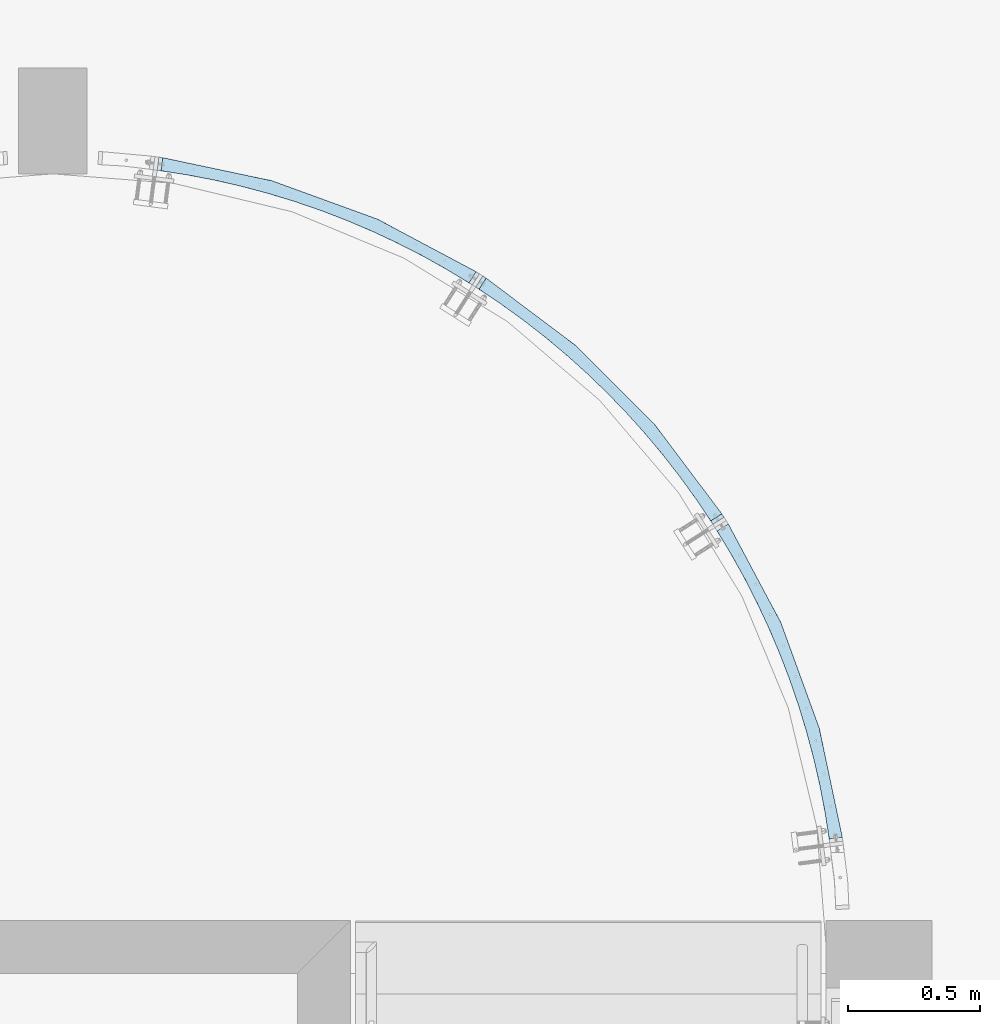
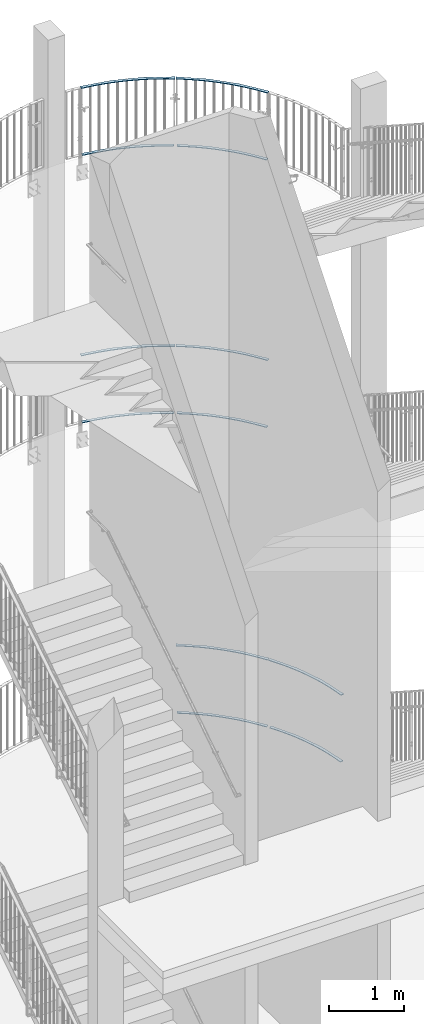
# One storey, part 106 of 296: 12 plates, 24 openings.
"""IFC2X3 building model written with IfcOpenShell, lengths in millimetres."""

from ifc_helpers import new_model, entity, si_unit, converted_unit, point, frame, frame_2d, origin, origin_with_axes, origin_2d_with_axis, place, context, project, spatial, polyline, circle_curve, line_curve, trimmed, segment, composite_curve, outline, extrude, material, layer, layer_set, element, save


model = new_model("IFC2X3")

# Units and contexts
model_context = context("Model", 3, precision=1e-09, world=origin_with_axes())
ifc_project = project(units=[si_unit("LENGTHUNIT", "METRE", prefix="MILLI"), si_unit("AREAUNIT", "SQUARE_METRE"), si_unit("VOLUMEUNIT", "CUBIC_METRE"), converted_unit("PLANEANGLEUNIT", "DEGREE", entity("IfcPlaneAngleMeasure", 0.01745329), si_unit("PLANEANGLEUNIT", "RADIAN"), dimensions=[0, 0, 0, 0, 0, 0, 0])], contexts=[model_context])

# Site, building, storey
site_placement = place(None, origin_with_axes())
site = spatial("IfcSite", under=ifc_project, at=site_placement, Name="TZD-S?d | Treppenhausgel?nder", CompositionType="ELEMENT")
building_placement = place(site_placement, origin_with_axes())
building = spatial("IfcBuilding", under=site, at=building_placement, Name="Struktur 1", CompositionType="ELEMENT")
storey_placement = place(building_placement, origin_with_axes())
storey = spatial("IfcBuildingStorey", under=building, at=storey_placement, Name="Default Storey", CompositionType="ELEMENT", Elevation=0.0)

# Plate, openings
ifc_material = material(Name="S235JR")
ifc_layer = layer(ifc_material, 10.0)
ifc_layer_set = layer_set([ifc_layer], Name="S235JR")
plate_1_placement = place(None, frame((3319.444758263, 2838.645663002, 12815.0), z_axis=(0.0, 0.0, -1.0), x_axis=(0.130526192, 0.991444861, 0.0)))
plate_1 = element("IfcPlate", 1, at=plate_1_placement, inside=storey, material=ifc_layer_set, Name="Girder", ObjectType="Girder", context=model_context, shape_type="SweptSolid", body=[
    extrude(outline(polyline([(0.0, 0.0), (50.000157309, 0.0), (48.357010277, 660.543062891), (-229.311353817, 1259.892808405), (-274.626885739, 1238.761828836), (-2964.990514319, -7.5), (0.0, 0.0)])), origin_with_axes(), (0.0, 0.0, -1.0), 10.0),
])
opening_1_placement = place(plate_1_placement, frame((48.357010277, 660.543062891, 0.01), z_axis=(0.0, 0.0, 1.0), x_axis=(-0.420362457, 0.907356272, 0.0)))
element("IfcOpeningElement", 2, at=opening_1_placement, cuts=plate_1, ObjectType="Opening", context=model_context, shape_type="SweptSolid", body=[
    extrude(outline(composite_curve([segment(trimmed(line_curve((0.0, 0.0), (1.0, 0.0), 660.54510661), [point((0.0, 0.0))], [point((660.54510661, 0.0))], True, "CARTESIAN"), True, "CONTINUOUS"), segment(trimmed(circle_curve(frame_2d((660.54510661, 3015.0), x_axis=(-1.0, 0.0)), 3015.0), [point((660.54510661, 0.0))], [point((-600.038608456, 276.176585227))], False, "CARTESIAN"), True, "CONTINUOUS"), segment(trimmed(line_curve((-600.038608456, 276.176585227), (0.908399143, -0.418104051), 660.54510661), [point((-600.038608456, 276.176585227))], [point((0.0, 0.0))], True, "CARTESIAN"), True, "CONTINUOUS")], self_intersect=False)), origin(), (0.0, 0.0, -1.0), 10.02),
])
opening_2_placement = place(plate_1_placement, frame((-2964.990514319, -7.5, 0.01), z_axis=(0.0, 0.0, 1.0), x_axis=(0.999996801, 0.002529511, 0.0)))
element("IfcOpeningElement", 3, at=opening_2_placement, cuts=plate_1, ObjectType="Opening", context=model_context, shape_type="SweptSolid", body=[
    extrude(outline(composite_curve([segment(trimmed(line_curve((0.0, 0.0), (1.0, 0.0), 2965.0), [point((0.0, 0.0))], [point((2965.0, 0.0))], True, "CARTESIAN"), True, "CONTINUOUS"), segment(trimmed(circle_curve(origin_2d_with_axis(), 2965.0), [point((2965.0, 0.0))], [point((2693.507454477, 1239.452537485))], True, "CARTESIAN"), True, "CONTINUOUS"), segment(trimmed(line_curve((2693.507454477, 1239.452537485), (-0.908434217, -0.418027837), 2965.0), [point((2693.507454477, 1239.452537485))], [point((0.0, 0.0))], True, "CARTESIAN"), True, "CONTINUOUS")], self_intersect=False)), origin(), (0.0, 0.0, -1.0), 10.02),
])

plate_2_placement = place(None, frame((5463.787594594, 1526.278742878, 12815.0), z_axis=(0.0, 0.0, -1.0), x_axis=(-0.843391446, -0.537299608, 0.0)))
plate_2 = element("IfcPlate", 4, at=plate_2_placement, inside=storey, material=ifc_layer_set, Name="Girder", ObjectType="Girder", context=model_context, shape_type="SweptSolid", body=[
    extrude(outline(polyline([(0.0, 0.0), (50.000157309, 0.0), (3014.990671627, -7.500000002), (324.627043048, 1238.761828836), (279.311511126, 1259.892808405), (1.643147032, 660.543062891), (0.0, 0.0)])), origin_with_axes(), (0.0, 0.0, -1.0), 10.0),
])
opening_3_placement = place(plate_2_placement, frame((3014.990671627, -7.500000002, 0.01), z_axis=(0.0, 0.0, 1.0), x_axis=(-0.907373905, 0.420324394, 0.0)))
element("IfcOpeningElement", 5, at=opening_3_placement, cuts=plate_2, ObjectType="Opening", context=model_context, shape_type="SweptSolid", body=[
    extrude(outline(composite_curve([segment(trimmed(line_curve((0.0, 0.0), (1.0, 0.0), 2965.0), [point((0.0, 0.0))], [point((2965.0, 0.0))], True, "CARTESIAN"), True, "CONTINUOUS"), segment(trimmed(circle_curve(origin_2d_with_axis(), 2965.0), [point((2965.0, 0.0))], [point((2693.507454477, 1239.452537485))], True, "CARTESIAN"), True, "CONTINUOUS"), segment(trimmed(line_curve((2693.507454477, 1239.452537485), (-0.908434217, -0.418027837), 2965.0), [point((2693.507454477, 1239.452537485))], [point((0.0, 0.0))], True, "CARTESIAN"), True, "CONTINUOUS")], self_intersect=False)), origin(), (0.0, 0.0, -1.0), 10.02),
])
opening_4_placement = place(plate_2_placement, frame((1.643147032, 660.543062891, 0.01), z_axis=(0.0, 0.0, 1.0), x_axis=(-0.002487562, -0.999996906, 0.0)))
element("IfcOpeningElement", 6, at=opening_4_placement, cuts=plate_2, ObjectType="Opening", context=model_context, shape_type="SweptSolid", body=[
    extrude(outline(composite_curve([segment(trimmed(line_curve((0.0, 0.0), (1.0, 0.0), 660.54510661), [point((0.0, 0.0))], [point((660.54510661, 0.0))], True, "CARTESIAN"), True, "CONTINUOUS"), segment(trimmed(circle_curve(frame_2d((660.54510661, 3015.0), x_axis=(-1.0, 0.0)), 3015.0), [point((660.54510661, 0.0))], [point((-600.038608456, 276.176585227))], False, "CARTESIAN"), True, "CONTINUOUS"), segment(trimmed(line_curve((-600.038608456, 276.176585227), (0.908399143, -0.418104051), 660.54510661), [point((-600.038608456, 276.176585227))], [point((0.0, 0.0))], True, "CARTESIAN"), True, "CONTINUOUS")], self_intersect=False)), origin(), (0.0, 0.0, -1.0), 10.02),
])

plate_3_placement = place(None, frame((3334.306526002, 2836.612532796, 11725.0), z_axis=(0.0, 0.0, 1.0), x_axis=(0.990425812, -0.138046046, 0.0)))
plate_3 = element("IfcPlate", 7, at=plate_3_placement, inside=storey, material=ifc_layer_set, Name="-", ObjectType="-", context=model_context, shape_type="SweptSolid", body=[
    extrude(outline(polyline([(0.0, 0.0), (0.0, -2965.0), (1212.136152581, -259.089626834), (1232.923168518, -213.613901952), (644.462458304, 50.0811294), (-0.379437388, 49.999976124), (0.0, 0.0)])), origin_with_axes(), (0.0, 0.0, -1.0), 10.0),
])
opening_5_placement = place(plate_3_placement, frame((0.0, -2965.0, 0.01), z_axis=(0.0, 0.0, 1.0), x_axis=(0.408814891, 0.912617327, 0.0)))
element("IfcOpeningElement", 8, at=opening_5_placement, cuts=plate_3, ObjectType="Opening", context=model_context, shape_type="SweptSolid", body=[
    extrude(outline(composite_curve([segment(trimmed(line_curve((0.0, 0.0), (1.0, 0.0), 2965.0), [point((0.0, 0.0))], [point((2965.0, 0.0))], True, "CARTESIAN"), True, "CONTINUOUS"), segment(trimmed(circle_curve(origin_2d_with_axis(), 2965.0), [point((2965.0, 0.0))], [point((2705.910373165, 1212.136152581))], True, "CARTESIAN"), True, "CONTINUOUS"), segment(trimmed(line_curve((2705.910373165, 1212.136152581), (-0.912617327, -0.408814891), 2965.0), [point((2705.910373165, 1212.136152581))], [point((0.0, 0.0))], True, "CARTESIAN"), True, "CONTINUOUS")], self_intersect=False)), origin(), (0.0, 0.0, -1.0), 10.02),
])
opening_6_placement = place(plate_3_placement, frame((644.462458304, 50.0811294, 0.01), z_axis=(0.0, 0.0, 1.0), x_axis=(-0.999999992, -0.00012585, 0.0)))
element("IfcOpeningElement", 9, at=opening_6_placement, cuts=plate_3, ObjectType="Opening", context=model_context, shape_type="SweptSolid", body=[
    extrude(outline(composite_curve([segment(trimmed(line_curve((0.0, 0.0), (1.0, 0.0), 644.841900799), [point((0.0, 0.0))], [point((644.841900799, 0.0))], True, "CARTESIAN"), True, "CONTINUOUS"), segment(trimmed(circle_curve(frame_2d((644.841900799, 3015.0), x_axis=(-1.0, 0.0)), 3015.0), [point((644.841900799, 0.0))], [point((-588.427519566, 263.769086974))], False, "CARTESIAN"), True, "CONTINUOUS"), segment(trimmed(line_curve((-588.427519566, 263.769086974), (0.912514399, -0.409044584), 644.841900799), [point((-588.427519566, 263.769086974))], [point((0.0, 0.0))], True, "CARTESIAN"), True, "CONTINUOUS")], self_intersect=False)), origin(), (0.0, 0.0, -1.0), 10.02),
])

plate_4_placement = place(None, frame((5413.494393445, 1512.023775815, 11725.0), z_axis=(0.0, 0.0, 1.0), x_axis=(0.843391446, 0.537299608, 0.0)))
plate_4 = element("IfcPlate", 10, at=plate_4_placement, inside=storey, material=ifc_layer_set, Name="-", ObjectType="-", context=model_context, shape_type="SweptSolid", body=[
    extrude(outline(polyline([(0.0, 0.0), (50.001415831, 0.0), (45.189162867, 644.823944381), (-222.963829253, 1231.266652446), (-268.280501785, 1210.135141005), (-2964.914627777, -22.499999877), (0.0, 0.0)])), origin_with_axes(), (0.0, 0.0, -1.0), 10.0),
])
opening_7_placement = place(plate_4_placement, frame((45.189162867, 644.823944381, 0.01), z_axis=(0.0, 0.0, 1.0), x_axis=(-0.415843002, 0.909436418, 0.0)))
element("IfcOpeningElement", 11, at=opening_7_placement, cuts=plate_4, ObjectType="Opening", context=model_context, shape_type="SweptSolid", body=[
    extrude(outline(composite_curve([segment(trimmed(line_curve((0.0, 0.0), (1.0, 0.0), 644.841900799), [point((0.0, 0.0))], [point((644.841900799, 0.0))], True, "CARTESIAN"), True, "CONTINUOUS"), segment(trimmed(circle_curve(frame_2d((644.841900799, 3015.0), x_axis=(-1.0, 0.0)), 3015.0), [point((644.841900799, 0.0))], [point((-588.427519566, 263.769086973))], False, "CARTESIAN"), True, "CONTINUOUS"), segment(trimmed(line_curve((-588.427519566, 263.769086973), (0.912514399, -0.409044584), 644.841900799), [point((-588.427519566, 263.769086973))], [point((0.0, 0.0))], True, "CARTESIAN"), True, "CONTINUOUS")], self_intersect=False)), origin(), (0.0, 0.0, -1.0), 10.02),
])
opening_8_placement = place(plate_4_placement, frame((-2964.914627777, -22.499999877, 0.01), z_axis=(0.0, 0.0, 1.0), x_axis=(0.999971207, 0.007588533, 0.0)))
element("IfcOpeningElement", 12, at=opening_8_placement, cuts=plate_4, ObjectType="Opening", context=model_context, shape_type="SweptSolid", body=[
    extrude(outline(composite_curve([segment(trimmed(line_curve((0.0, 0.0), (1.0, 0.0), 2965.0), [point((0.0, 0.0))], [point((2965.0, 0.0))], True, "CARTESIAN"), True, "CONTINUOUS"), segment(trimmed(circle_curve(origin_2d_with_axis(), 2965.0), [point((2965.0, 0.0))], [point((2705.910373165, 1212.136152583))], True, "CARTESIAN"), True, "CONTINUOUS"), segment(trimmed(line_curve((2705.910373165, 1212.136152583), (-0.912617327, -0.408814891), 2965.0), [point((2705.910373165, 1212.136152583))], [point((0.0, 0.0))], True, "CARTESIAN"), True, "CONTINUOUS")], self_intersect=False)), origin(), (0.0, 0.0, -1.0), 10.02),
])

plate_5_placement = place(None, frame((3334.306526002, 2836.612532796, 7350.0), z_axis=(0.0, 0.0, 1.0), x_axis=(0.990425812, -0.138046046, 0.0)))
plate_5 = element("IfcPlate", 13, at=plate_5_placement, inside=storey, material=ifc_layer_set, Name="-", ObjectType="-", context=model_context, shape_type="SweptSolid", body=[
    extrude(outline(polyline([(0.0, 0.0), (0.0, -2965.0), (1212.136152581, -259.089626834), (1232.923168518, -213.613901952), (644.462458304, 50.0811294), (-0.379437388, 49.999976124), (0.0, 0.0)])), origin_with_axes(), (0.0, 0.0, -1.0), 10.0),
])
opening_9_placement = place(plate_5_placement, frame((0.0, -2965.0, 0.01), z_axis=(0.0, 0.0, 1.0), x_axis=(0.408814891, 0.912617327, 0.0)))
element("IfcOpeningElement", 14, at=opening_9_placement, cuts=plate_5, ObjectType="Opening", context=model_context, shape_type="SweptSolid", body=[
    extrude(outline(composite_curve([segment(trimmed(line_curve((0.0, 0.0), (1.0, 0.0), 2965.0), [point((0.0, 0.0))], [point((2965.0, 0.0))], True, "CARTESIAN"), True, "CONTINUOUS"), segment(trimmed(circle_curve(origin_2d_with_axis(), 2965.0), [point((2965.0, 0.0))], [point((2705.910373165, 1212.136152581))], True, "CARTESIAN"), True, "CONTINUOUS"), segment(trimmed(line_curve((2705.910373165, 1212.136152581), (-0.912617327, -0.408814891), 2965.0), [point((2705.910373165, 1212.136152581))], [point((0.0, 0.0))], True, "CARTESIAN"), True, "CONTINUOUS")], self_intersect=False)), origin(), (0.0, 0.0, -1.0), 10.02),
])
opening_10_placement = place(plate_5_placement, frame((644.462458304, 50.0811294, 0.01), z_axis=(0.0, 0.0, 1.0), x_axis=(-0.999999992, -0.00012585, 0.0)))
element("IfcOpeningElement", 15, at=opening_10_placement, cuts=plate_5, ObjectType="Opening", context=model_context, shape_type="SweptSolid", body=[
    extrude(outline(composite_curve([segment(trimmed(line_curve((0.0, 0.0), (1.0, 0.0), 644.841900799), [point((0.0, 0.0))], [point((644.841900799, 0.0))], True, "CARTESIAN"), True, "CONTINUOUS"), segment(trimmed(circle_curve(frame_2d((644.841900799, 3015.0), x_axis=(-1.0, 0.0)), 3015.0), [point((644.841900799, 0.0))], [point((-588.427519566, 263.769086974))], False, "CARTESIAN"), True, "CONTINUOUS"), segment(trimmed(line_curve((-588.427519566, 263.769086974), (0.912514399, -0.409044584), 644.841900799), [point((-588.427519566, 263.769086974))], [point((0.0, 0.0))], True, "CARTESIAN"), True, "CONTINUOUS")], self_intersect=False)), origin(), (0.0, 0.0, -1.0), 10.02),
])

plate_6_placement = place(None, frame((5413.494393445, 1512.023775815, 7350.0), z_axis=(0.0, 0.0, 1.0), x_axis=(0.843391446, 0.537299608, 0.0)))
plate_6 = element("IfcPlate", 16, at=plate_6_placement, inside=storey, material=ifc_layer_set, Name="-", ObjectType="-", context=model_context, shape_type="SweptSolid", body=[
    extrude(outline(polyline([(0.0, 0.0), (50.001415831, 0.0), (45.189162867, 644.823944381), (-222.963829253, 1231.266652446), (-268.280501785, 1210.135141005), (-2964.914627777, -22.499999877), (0.0, 0.0)])), origin_with_axes(), (0.0, 0.0, -1.0), 10.0),
])
opening_11_placement = place(plate_6_placement, frame((45.189162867, 644.823944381, 0.01), z_axis=(0.0, 0.0, 1.0), x_axis=(-0.415843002, 0.909436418, 0.0)))
element("IfcOpeningElement", 17, at=opening_11_placement, cuts=plate_6, ObjectType="Opening", context=model_context, shape_type="SweptSolid", body=[
    extrude(outline(composite_curve([segment(trimmed(line_curve((0.0, 0.0), (1.0, 0.0), 644.841900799), [point((0.0, 0.0))], [point((644.841900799, 0.0))], True, "CARTESIAN"), True, "CONTINUOUS"), segment(trimmed(circle_curve(frame_2d((644.841900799, 3015.0), x_axis=(-1.0, 0.0)), 3015.0), [point((644.841900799, 0.0))], [point((-588.427519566, 263.769086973))], False, "CARTESIAN"), True, "CONTINUOUS"), segment(trimmed(line_curve((-588.427519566, 263.769086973), (0.912514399, -0.409044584), 644.841900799), [point((-588.427519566, 263.769086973))], [point((0.0, 0.0))], True, "CARTESIAN"), True, "CONTINUOUS")], self_intersect=False)), origin(), (0.0, 0.0, -1.0), 10.02),
])
opening_12_placement = place(plate_6_placement, frame((-2964.914627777, -22.499999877, 0.01), z_axis=(0.0, 0.0, 1.0), x_axis=(0.999971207, 0.007588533, 0.0)))
element("IfcOpeningElement", 18, at=opening_12_placement, cuts=plate_6, ObjectType="Opening", context=model_context, shape_type="SweptSolid", body=[
    extrude(outline(composite_curve([segment(trimmed(line_curve((0.0, 0.0), (1.0, 0.0), 2965.0), [point((0.0, 0.0))], [point((2965.0, 0.0))], True, "CARTESIAN"), True, "CONTINUOUS"), segment(trimmed(circle_curve(origin_2d_with_axis(), 2965.0), [point((2965.0, 0.0))], [point((2705.910373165, 1212.136152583))], True, "CARTESIAN"), True, "CONTINUOUS"), segment(trimmed(line_curve((2705.910373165, 1212.136152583), (-0.912617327, -0.408814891), 2965.0), [point((2705.910373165, 1212.136152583))], [point((0.0, 0.0))], True, "CARTESIAN"), True, "CONTINUOUS")], self_intersect=False)), origin(), (0.0, 0.0, -1.0), 10.02),
])

plate_7_placement = place(None, frame((5463.787594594, 1526.278742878, 8440.0), z_axis=(0.0, 0.0, -1.0), x_axis=(-0.843391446, -0.537299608, 0.0)))
plate_7 = element("IfcPlate", 19, at=plate_7_placement, inside=storey, material=ifc_layer_set, Name="Girder", ObjectType="Girder", context=model_context, shape_type="SweptSolid", body=[
    extrude(outline(polyline([(0.0, 0.0), (50.000157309, 0.0), (3014.990671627, -7.500000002), (324.627043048, 1238.761828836), (279.311511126, 1259.892808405), (1.643147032, 660.543062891), (0.0, 0.0)])), origin_with_axes(), (0.0, 0.0, -1.0), 10.0),
])
opening_13_placement = place(plate_7_placement, frame((3014.990671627, -7.500000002, 0.01), z_axis=(0.0, 0.0, 1.0), x_axis=(-0.907373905, 0.420324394, 0.0)))
element("IfcOpeningElement", 20, at=opening_13_placement, cuts=plate_7, ObjectType="Opening", context=model_context, shape_type="SweptSolid", body=[
    extrude(outline(composite_curve([segment(trimmed(line_curve((0.0, 0.0), (1.0, 0.0), 2965.0), [point((0.0, 0.0))], [point((2965.0, 0.0))], True, "CARTESIAN"), True, "CONTINUOUS"), segment(trimmed(circle_curve(origin_2d_with_axis(), 2965.0), [point((2965.0, 0.0))], [point((2693.507454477, 1239.452537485))], True, "CARTESIAN"), True, "CONTINUOUS"), segment(trimmed(line_curve((2693.507454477, 1239.452537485), (-0.908434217, -0.418027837), 2965.0), [point((2693.507454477, 1239.452537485))], [point((0.0, 0.0))], True, "CARTESIAN"), True, "CONTINUOUS")], self_intersect=False)), origin(), (0.0, 0.0, -1.0), 10.02),
])
opening_14_placement = place(plate_7_placement, frame((1.643147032, 660.543062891, 0.01), z_axis=(0.0, 0.0, 1.0), x_axis=(-0.002487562, -0.999996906, 0.0)))
element("IfcOpeningElement", 21, at=opening_14_placement, cuts=plate_7, ObjectType="Opening", context=model_context, shape_type="SweptSolid", body=[
    extrude(outline(composite_curve([segment(trimmed(line_curve((0.0, 0.0), (1.0, 0.0), 660.54510661), [point((0.0, 0.0))], [point((660.54510661, 0.0))], True, "CARTESIAN"), True, "CONTINUOUS"), segment(trimmed(circle_curve(frame_2d((660.54510661, 3015.0), x_axis=(-1.0, 0.0)), 3015.0), [point((660.54510661, 0.0))], [point((-600.038608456, 276.176585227))], False, "CARTESIAN"), True, "CONTINUOUS"), segment(trimmed(line_curve((-600.038608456, 276.176585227), (0.908399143, -0.418104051), 660.54510661), [point((-600.038608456, 276.176585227))], [point((0.0, 0.0))], True, "CARTESIAN"), True, "CONTINUOUS")], self_intersect=False)), origin(), (0.0, 0.0, -1.0), 10.02),
])

plate_8_placement = place(None, frame((3319.444758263, 2838.645663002, 8440.0), z_axis=(0.0, 0.0, -1.0), x_axis=(0.130526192, 0.991444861, 0.0)))
plate_8 = element("IfcPlate", 22, at=plate_8_placement, inside=storey, material=ifc_layer_set, Name="Girder", ObjectType="Girder", context=model_context, shape_type="SweptSolid", body=[
    extrude(outline(polyline([(0.0, 0.0), (50.000157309, 0.0), (48.357010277, 660.543062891), (-229.311353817, 1259.892808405), (-274.626885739, 1238.761828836), (-2964.990514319, -7.5), (0.0, 0.0)])), origin_with_axes(), (0.0, 0.0, -1.0), 10.0),
])
opening_15_placement = place(plate_8_placement, frame((48.357010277, 660.543062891, 0.01), z_axis=(0.0, 0.0, 1.0), x_axis=(-0.420362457, 0.907356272, 0.0)))
element("IfcOpeningElement", 23, at=opening_15_placement, cuts=plate_8, ObjectType="Opening", context=model_context, shape_type="SweptSolid", body=[
    extrude(outline(composite_curve([segment(trimmed(line_curve((0.0, 0.0), (1.0, 0.0), 660.54510661), [point((0.0, 0.0))], [point((660.54510661, 0.0))], True, "CARTESIAN"), True, "CONTINUOUS"), segment(trimmed(circle_curve(frame_2d((660.54510661, 3015.0), x_axis=(-1.0, 0.0)), 3015.0), [point((660.54510661, 0.0))], [point((-600.038608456, 276.176585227))], False, "CARTESIAN"), True, "CONTINUOUS"), segment(trimmed(line_curve((-600.038608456, 276.176585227), (0.908399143, -0.418104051), 660.54510661), [point((-600.038608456, 276.176585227))], [point((0.0, 0.0))], True, "CARTESIAN"), True, "CONTINUOUS")], self_intersect=False)), origin(), (0.0, 0.0, -1.0), 10.02),
])
opening_16_placement = place(plate_8_placement, frame((-2964.990514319, -7.5, 0.01), z_axis=(0.0, 0.0, 1.0), x_axis=(0.999996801, 0.002529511, 0.0)))
element("IfcOpeningElement", 24, at=opening_16_placement, cuts=plate_8, ObjectType="Opening", context=model_context, shape_type="SweptSolid", body=[
    extrude(outline(composite_curve([segment(trimmed(line_curve((0.0, 0.0), (1.0, 0.0), 2965.0), [point((0.0, 0.0))], [point((2965.0, 0.0))], True, "CARTESIAN"), True, "CONTINUOUS"), segment(trimmed(circle_curve(origin_2d_with_axis(), 2965.0), [point((2965.0, 0.0))], [point((2693.507454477, 1239.452537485))], True, "CARTESIAN"), True, "CONTINUOUS"), segment(trimmed(line_curve((2693.507454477, 1239.452537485), (-0.908434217, -0.418027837), 2965.0), [point((2693.507454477, 1239.452537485))], [point((0.0, 0.0))], True, "CARTESIAN"), True, "CONTINUOUS")], self_intersect=False)), origin(), (0.0, 0.0, -1.0), 10.02),
])

plate_9_placement = place(None, frame((5413.494393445, 1512.023775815, 2450.0), z_axis=(0.0, 0.0, 1.0), x_axis=(0.843391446, 0.537299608, 0.0)))
plate_9 = element("IfcPlate", 25, at=plate_9_placement, inside=storey, material=ifc_layer_set, Name="-", ObjectType="-", context=model_context, shape_type="SweptSolid", body=[
    extrude(outline(polyline([(0.0, 0.0), (50.001415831, 0.0), (45.189162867, 644.823944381), (-222.963829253, 1231.266652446), (-268.280501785, 1210.135141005), (-2964.914627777, -22.499999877), (0.0, 0.0)])), origin_with_axes(), (0.0, 0.0, -1.0), 10.0),
])
opening_17_placement = place(plate_9_placement, frame((45.189162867, 644.823944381, 0.01), z_axis=(0.0, 0.0, 1.0), x_axis=(-0.415843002, 0.909436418, 0.0)))
element("IfcOpeningElement", 26, at=opening_17_placement, cuts=plate_9, ObjectType="Opening", context=model_context, shape_type="SweptSolid", body=[
    extrude(outline(composite_curve([segment(trimmed(line_curve((0.0, 0.0), (1.0, 0.0), 644.841900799), [point((0.0, 0.0))], [point((644.841900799, 0.0))], True, "CARTESIAN"), True, "CONTINUOUS"), segment(trimmed(circle_curve(frame_2d((644.841900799, 3015.0), x_axis=(-1.0, 0.0)), 3015.0), [point((644.841900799, 0.0))], [point((-588.427519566, 263.769086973))], False, "CARTESIAN"), True, "CONTINUOUS"), segment(trimmed(line_curve((-588.427519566, 263.769086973), (0.912514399, -0.409044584), 644.841900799), [point((-588.427519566, 263.769086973))], [point((0.0, 0.0))], True, "CARTESIAN"), True, "CONTINUOUS")], self_intersect=False)), origin(), (0.0, 0.0, -1.0), 10.02),
])
opening_18_placement = place(plate_9_placement, frame((-2964.914627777, -22.499999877, 0.01), z_axis=(0.0, 0.0, 1.0), x_axis=(0.999971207, 0.007588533, 0.0)))
element("IfcOpeningElement", 27, at=opening_18_placement, cuts=plate_9, ObjectType="Opening", context=model_context, shape_type="SweptSolid", body=[
    extrude(outline(composite_curve([segment(trimmed(line_curve((0.0, 0.0), (1.0, 0.0), 2965.0), [point((0.0, 0.0))], [point((2965.0, 0.0))], True, "CARTESIAN"), True, "CONTINUOUS"), segment(trimmed(circle_curve(origin_2d_with_axis(), 2965.0), [point((2965.0, 0.0))], [point((2705.910373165, 1212.136152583))], True, "CARTESIAN"), True, "CONTINUOUS"), segment(trimmed(line_curve((2705.910373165, 1212.136152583), (-0.912617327, -0.408814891), 2965.0), [point((2705.910373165, 1212.136152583))], [point((0.0, 0.0))], True, "CARTESIAN"), True, "CONTINUOUS")], self_intersect=False)), origin(), (0.0, 0.0, -1.0), 10.02),
])

plate_10_placement = place(None, frame((5437.672875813, 1474.071160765, 2450.0), z_axis=(0.0, 0.0, 1.0), x_axis=(0.530884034, -0.847444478, 0.0)))
plate_10 = element("IfcPlate", 28, at=plate_10_placement, inside=storey, material=ifc_layer_set, Name="-", ObjectType="-", context=model_context, shape_type="SweptSolid", body=[
    extrude(outline(polyline([(0.0, 0.0), (0.0, -2964.999999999), (1212.136152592, -259.089626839), (1232.92316853, -213.613901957), (644.462458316, 50.081129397), (-0.379437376, 49.999976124), (0.0, 0.0)])), origin_with_axes(), (0.0, 0.0, -1.0), 10.0),
])
opening_19_placement = place(plate_10_placement, frame((0.0, -2964.999999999, 0.01), z_axis=(0.0, 0.0, 1.0), x_axis=(0.408814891, 0.912617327, 0.0)))
element("IfcOpeningElement", 29, at=opening_19_placement, cuts=plate_10, ObjectType="Opening", context=model_context, shape_type="SweptSolid", body=[
    extrude(outline(composite_curve([segment(trimmed(line_curve((0.0, 0.0), (1.0, 0.0), 2964.999999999), [point((0.0, 0.0))], [point((2964.999999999, 0.0))], True, "CARTESIAN"), True, "CONTINUOUS"), segment(trimmed(circle_curve(origin_2d_with_axis(), 2964.999999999), [point((2964.999999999, 0.0))], [point((2705.910373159, 1212.136152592))], True, "CARTESIAN"), True, "CONTINUOUS"), segment(trimmed(line_curve((2705.910373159, 1212.136152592), (-0.912617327, -0.408814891), 2964.999999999), [point((2705.910373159, 1212.136152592))], [point((0.0, 0.0))], True, "CARTESIAN"), True, "CONTINUOUS")], self_intersect=False)), origin(), (0.0, 0.0, -1.0), 10.02),
])
opening_20_placement = place(plate_10_placement, frame((644.462458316, 50.081129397, 0.01), z_axis=(0.0, 0.0, 1.0), x_axis=(-0.999999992, -0.00012585, 0.0)))
element("IfcOpeningElement", 30, at=opening_20_placement, cuts=plate_10, ObjectType="Opening", context=model_context, shape_type="SweptSolid", body=[
    extrude(outline(composite_curve([segment(trimmed(line_curve((0.0, 0.0), (1.0, 0.0), 644.841900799), [point((0.0, 0.0))], [point((644.841900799, 0.0))], True, "CARTESIAN"), True, "CONTINUOUS"), segment(trimmed(circle_curve(frame_2d((644.841900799, 3015.000000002), x_axis=(-1.0, 0.0)), 3015.000000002), [point((644.841900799, 0.0))], [point((-588.427519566, 263.769086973))], False, "CARTESIAN"), True, "CONTINUOUS"), segment(trimmed(line_curve((-588.427519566, 263.769086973), (0.912514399, -0.409044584), 644.841900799), [point((-588.427519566, 263.769086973))], [point((0.0, 0.0))], True, "CARTESIAN"), True, "CONTINUOUS")], self_intersect=False)), origin(), (0.0, 0.0, -1.0), 10.02),
])

plate_11_placement = place(None, frame((5863.645663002, 294.444758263, 3540.0), z_axis=(0.0, 0.0, -1.0), x_axis=(-0.133033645, 0.991111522, 0.0)))
plate_11 = element("IfcPlate", 31, at=plate_11_placement, inside=storey, material=ifc_layer_set, Name="Girder", ObjectType="Girder", context=model_context, shape_type="SweptSolid", body=[
    extrude(outline(polyline([(0.0, 0.0), (0.0, -2965.0), (1239.452537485, -271.492545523), (1260.468823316, -226.123707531), (660.418630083, 50.027706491), (-0.126475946, 49.999997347), (0.0, 0.0)])), origin_with_axes(), (0.0, 0.0, -1.0), 10.0),
])
opening_21_placement = place(plate_11_placement, frame((0.0, -2965.0, 0.01), z_axis=(0.0, 0.0, 1.0), x_axis=(0.418027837, 0.908434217, 0.0)))
element("IfcOpeningElement", 32, at=opening_21_placement, cuts=plate_11, ObjectType="Opening", context=model_context, shape_type="SweptSolid", body=[
    extrude(outline(composite_curve([segment(trimmed(line_curve((0.0, 0.0), (1.0, 0.0), 2965.0), [point((0.0, 0.0))], [point((2965.0, 0.0))], True, "CARTESIAN"), True, "CONTINUOUS"), segment(trimmed(circle_curve(origin_2d_with_axis(), 2965.0), [point((2965.0, 0.0))], [point((2693.507454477, 1239.452537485))], True, "CARTESIAN"), True, "CONTINUOUS"), segment(trimmed(line_curve((2693.507454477, 1239.452537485), (-0.908434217, -0.418027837), 2965.0), [point((2693.507454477, 1239.452537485))], [point((0.0, 0.0))], True, "CARTESIAN"), True, "CONTINUOUS")], self_intersect=False)), origin(), (0.0, 0.0, -1.0), 10.02),
])
opening_22_placement = place(plate_11_placement, frame((660.418630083, 50.027706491, 0.01), z_axis=(0.0, 0.0, 1.0), x_axis=(-0.999999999, -4.1949e-05, 0.0)))
element("IfcOpeningElement", 33, at=opening_22_placement, cuts=plate_11, ObjectType="Opening", context=model_context, shape_type="SweptSolid", body=[
    extrude(outline(composite_curve([segment(trimmed(line_curve((0.0, 0.0), (1.0, 0.0), 660.54510661), [point((0.0, 0.0))], [point((660.54510661, 0.0))], True, "CARTESIAN"), True, "CONTINUOUS"), segment(trimmed(circle_curve(frame_2d((660.54510661, 3015.0), x_axis=(-1.0, 0.0)), 3015.0), [point((660.54510661, 0.0))], [point((-600.038608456, 276.176585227))], False, "CARTESIAN"), True, "CONTINUOUS"), segment(trimmed(line_curve((-600.038608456, 276.176585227), (0.908399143, -0.418104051), 660.54510661), [point((-600.038608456, 276.176585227))], [point((0.0, 0.0))], True, "CARTESIAN"), True, "CONTINUOUS")], self_intersect=False)), origin(), (0.0, 0.0, -1.0), 10.02),
])

plate_12_placement = place(None, frame((5463.787594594, 1526.278742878, 3540.0), z_axis=(0.0, 0.0, -1.0), x_axis=(-0.843391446, -0.537299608, 0.0)))
plate_12 = element("IfcPlate", 34, at=plate_12_placement, inside=storey, material=ifc_layer_set, Name="Girder", ObjectType="Girder", context=model_context, shape_type="SweptSolid", body=[
    extrude(outline(polyline([(0.0, 0.0), (50.000157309, 0.0), (3014.990671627, -7.500000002), (324.627043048, 1238.761828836), (279.311511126, 1259.892808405), (1.643147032, 660.543062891), (0.0, 0.0)])), origin_with_axes(), (0.0, 0.0, -1.0), 10.0),
])
opening_23_placement = place(plate_12_placement, frame((3014.990671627, -7.500000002, 0.01), z_axis=(0.0, 0.0, 1.0), x_axis=(-0.907373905, 0.420324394, 0.0)))
element("IfcOpeningElement", 35, at=opening_23_placement, cuts=plate_12, ObjectType="Opening", context=model_context, shape_type="SweptSolid", body=[
    extrude(outline(composite_curve([segment(trimmed(line_curve((0.0, 0.0), (1.0, 0.0), 2965.0), [point((0.0, 0.0))], [point((2965.0, 0.0))], True, "CARTESIAN"), True, "CONTINUOUS"), segment(trimmed(circle_curve(origin_2d_with_axis(), 2965.0), [point((2965.0, 0.0))], [point((2693.507454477, 1239.452537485))], True, "CARTESIAN"), True, "CONTINUOUS"), segment(trimmed(line_curve((2693.507454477, 1239.452537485), (-0.908434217, -0.418027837), 2965.0), [point((2693.507454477, 1239.452537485))], [point((0.0, 0.0))], True, "CARTESIAN"), True, "CONTINUOUS")], self_intersect=False)), origin(), (0.0, 0.0, -1.0), 10.02),
])
opening_24_placement = place(plate_12_placement, frame((1.643147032, 660.543062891, 0.01), z_axis=(0.0, 0.0, 1.0), x_axis=(-0.002487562, -0.999996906, 0.0)))
element("IfcOpeningElement", 36, at=opening_24_placement, cuts=plate_12, ObjectType="Opening", context=model_context, shape_type="SweptSolid", body=[
    extrude(outline(composite_curve([segment(trimmed(line_curve((0.0, 0.0), (1.0, 0.0), 660.54510661), [point((0.0, 0.0))], [point((660.54510661, 0.0))], True, "CARTESIAN"), True, "CONTINUOUS"), segment(trimmed(circle_curve(frame_2d((660.54510661, 3015.0), x_axis=(-1.0, 0.0)), 3015.0), [point((660.54510661, 0.0))], [point((-600.038608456, 276.176585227))], False, "CARTESIAN"), True, "CONTINUOUS"), segment(trimmed(line_curve((-600.038608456, 276.176585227), (0.908399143, -0.418104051), 660.54510661), [point((-600.038608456, 276.176585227))], [point((0.0, 0.0))], True, "CARTESIAN"), True, "CONTINUOUS")], self_intersect=False)), origin(), (0.0, 0.0, -1.0), 10.02),
])

save(model, "model.ifc")
